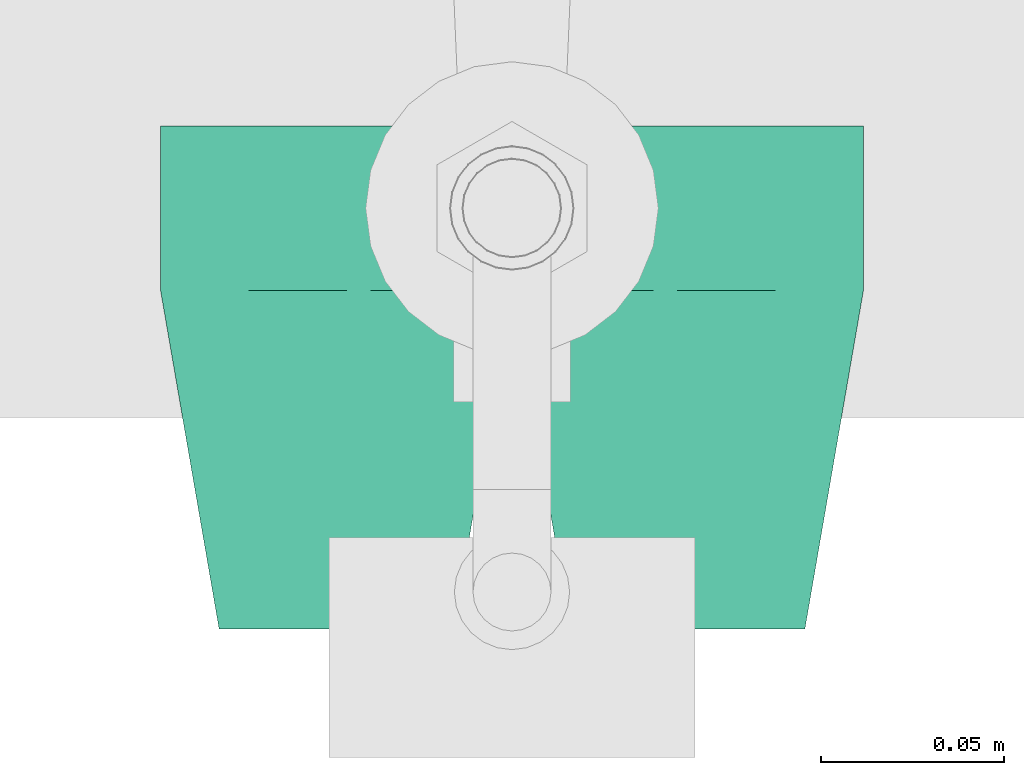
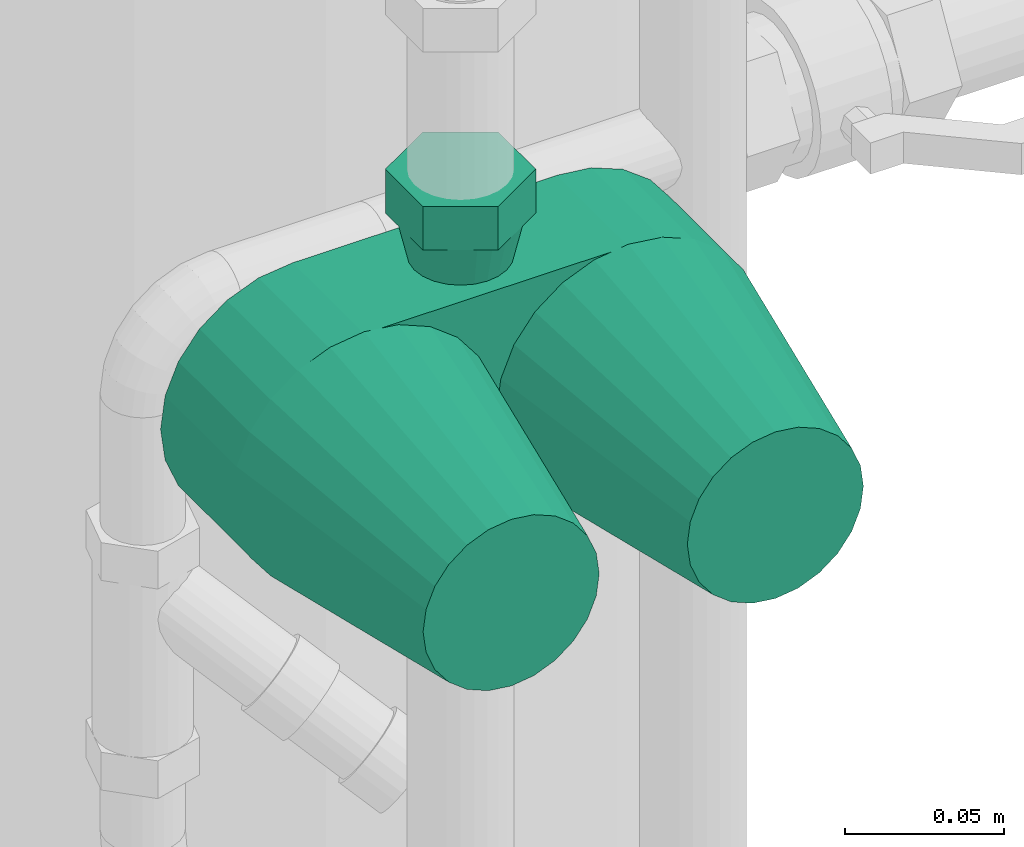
# One storey, part 104 of 374: 1 flow moving device.
"""IFC2X3 building model written with IfcOpenShell, lengths in metres."""

from ifc_helpers import new_model, si_unit, direction, origin, place, context, subcontext, project, spatial, open_shell, surface_model, source, transform, mapped, element, save


model = new_model("IFC2X3")

# Units and contexts
model_context = context("Model", 3, precision=1e-05, world=origin(), true_north=direction((-0.4480736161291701, 0.8939966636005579)))
body_context = subcontext(model_context, "Body", "Model", "MODEL_VIEW")
ifc_project = project(units=[si_unit("LENGTHUNIT", "METRE"), si_unit("AREAUNIT", "SQUARE_METRE"), si_unit("VOLUMEUNIT", "CUBIC_METRE"), si_unit("PLANEANGLEUNIT", "RADIAN"), si_unit("THERMODYNAMICTEMPERATUREUNIT", "KELVIN"), si_unit("MASSUNIT", "GRAM", prefix="KILO"), si_unit("TIMEUNIT", "SECOND")], contexts=[model_context])

# Site, building, storey
site_placement = place(None, origin())
site = spatial("IfcSite", under=ifc_project, at=site_placement, Name="Site 1", CompositionType="ELEMENT")
building_placement = place(site_placement, origin())
building = spatial("IfcBuilding", under=site, at=building_placement, Name="Undefined", CompositionType="ELEMENT")
storey_placement = place(building_placement, origin())
storey = spatial("IfcBuildingStorey", under=building, at=storey_placement, Name="Rez de chauss\x8ee", CompositionType="ELEMENT", Elevation=0.0)

# Flow moving device
shared_shape = source(origin(), body_context, "Body", "SurfaceModel", [
    surface_model("IfcFaceBasedSurfaceModel", [(0.0, 0.0, 0.0), (0.02367136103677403, 0.0, 0.0), (0.02367136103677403, 0.016799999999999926, 0.0), (0.0, 0.016799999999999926, 0.0), (-0.011835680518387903, 0.0, 0.02049999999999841), (-0.011835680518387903, 0.016799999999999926, 0.02049999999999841), (0.0, 0.0, 0.04100000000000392), (0.0, 0.016799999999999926, 0.04100000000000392), (0.02367136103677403, 0.0, 0.04100000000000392), (0.02367136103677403, 0.016799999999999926, 0.04100000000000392), (0.03550704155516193, 0.0, 0.02049999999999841), (0.03550704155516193, 0.016799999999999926, 0.02049999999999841), (-0.008664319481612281, 0.016799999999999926, 0.02049999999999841), (-0.007965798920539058, 0.016799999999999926, 0.025805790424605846), (-0.0044401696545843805, 0.03279999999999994, 0.0248611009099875), (-0.005014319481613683, 0.03279999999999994, 0.020500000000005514), (-0.005917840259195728, 0.016799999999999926, 0.030750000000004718), (-0.002756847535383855, 0.03279999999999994, 0.028925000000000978), (-0.0026600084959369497, 0.016799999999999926, 0.03499568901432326), (-7.906874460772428e-05, 0.03279999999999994, 0.032414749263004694), (0.0015856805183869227, 0.016799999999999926, 0.03825352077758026), (0.003410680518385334, 0.03279999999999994, 0.03509252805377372), (0.006529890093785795, 0.016799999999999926, 0.04030147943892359), (0.007474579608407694, 0.03279999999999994, 0.036775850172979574), (0.011835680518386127, 0.016799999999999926, 0.04100000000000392), (0.01183568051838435, 0.03279999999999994, 0.03735000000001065), (0.017141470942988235, 0.016799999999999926, 0.04030147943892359), (0.01619678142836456, 0.03279999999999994, 0.036775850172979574), (0.022085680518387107, 0.016799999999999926, 0.03825352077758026), (0.02026068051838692, 0.03279999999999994, 0.03509252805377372), (0.02633136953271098, 0.016799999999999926, 0.03499568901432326), (0.023750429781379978, 0.03279999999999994, 0.032414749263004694), (0.029589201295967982, 0.016799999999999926, 0.030750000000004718), (0.026428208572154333, 0.03279999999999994, 0.028925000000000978), (0.03163715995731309, 0.016799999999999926, 0.025805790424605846), (0.028111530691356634, 0.03279999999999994, 0.0248611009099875), (0.03233568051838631, 0.016799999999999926, 0.02049999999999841), (0.028685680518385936, 0.03279999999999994, 0.020500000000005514), (0.03163715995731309, 0.016799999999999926, 0.015194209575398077), (0.028111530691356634, 0.03279999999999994, 0.016138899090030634), (0.029589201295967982, 0.016799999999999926, 0.010249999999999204), (0.026428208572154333, 0.03279999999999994, 0.012075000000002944), (0.02633136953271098, 0.016799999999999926, 0.006004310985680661), (0.023750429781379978, 0.03279999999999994, 0.008585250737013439), (0.022085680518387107, 0.016799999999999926, 0.002746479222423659), (0.02026068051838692, 0.03279999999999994, 0.005907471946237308), (0.017141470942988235, 0.016799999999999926, 0.0006985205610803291), (0.01619678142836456, 0.03279999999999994, 0.004224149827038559), (0.011835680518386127, 0.016799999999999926, 0.0), (0.01183568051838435, 0.03279999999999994, 0.0036500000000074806), (0.006529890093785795, 0.016799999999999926, 0.0006985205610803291), (0.007474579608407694, 0.03279999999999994, 0.004224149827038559), (0.0015856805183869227, 0.016799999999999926, 0.002746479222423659), (0.003410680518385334, 0.03279999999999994, 0.005907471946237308), (-0.0026600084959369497, 0.016799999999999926, 0.006004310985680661), (-7.906874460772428e-05, 0.03279999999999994, 0.008585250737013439), (-0.005917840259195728, 0.016799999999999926, 0.010249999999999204), (-0.002756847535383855, 0.03279999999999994, 0.012075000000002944), (-0.007965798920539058, 0.016799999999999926, 0.015194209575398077), (-0.0044401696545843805, 0.03279999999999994, 0.016138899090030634), (-0.005014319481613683, 0.12719999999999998, 0.02049999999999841), (-0.0044401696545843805, 0.12719999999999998, 0.024861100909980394), (-0.007965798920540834, 0.1432, 0.02580579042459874), (-0.008664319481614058, 0.1432, 0.020499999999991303), (-0.0027568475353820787, 0.12719999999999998, 0.028925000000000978), (-0.005917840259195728, 0.1432, 0.030750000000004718), (-7.906874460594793e-05, 0.12719999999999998, 0.03241474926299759), (-0.0026600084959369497, 0.1432, 0.034995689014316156), (0.0034106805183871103, 0.12719999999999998, 0.03509252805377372), (0.0015856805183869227, 0.1432, 0.03825352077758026), (0.007474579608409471, 0.12719999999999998, 0.03677585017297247), (0.006529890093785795, 0.1432, 0.04030147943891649), (0.011835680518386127, 0.12719999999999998, 0.03734999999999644), (0.011835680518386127, 0.1432, 0.04099999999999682), (0.01619678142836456, 0.12719999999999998, 0.03677585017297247), (0.01714147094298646, 0.1432, 0.04030147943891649), (0.02026068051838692, 0.12719999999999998, 0.03509252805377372), (0.02208568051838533, 0.1432, 0.03825352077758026), (0.023750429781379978, 0.12719999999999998, 0.03241474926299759), (0.026331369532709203, 0.1432, 0.034995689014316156), (0.02642820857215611, 0.12719999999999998, 0.028925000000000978), (0.029589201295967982, 0.1432, 0.030750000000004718), (0.02811153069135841, 0.12719999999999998, 0.024861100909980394), (0.03163715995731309, 0.1432, 0.02580579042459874), (0.028685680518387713, 0.12719999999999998, 0.02049999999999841), (0.03233568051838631, 0.1432, 0.020499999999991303), (0.02811153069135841, 0.12719999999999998, 0.01613889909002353), (0.03163715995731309, 0.1432, 0.015194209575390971), (0.02642820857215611, 0.12719999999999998, 0.012074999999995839), (0.029589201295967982, 0.1432, 0.010249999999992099), (0.023750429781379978, 0.12719999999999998, 0.008585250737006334), (0.026331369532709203, 0.1432, 0.0060043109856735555), (0.02026068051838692, 0.12719999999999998, 0.005907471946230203), (0.02208568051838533, 0.1432, 0.0027464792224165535), (0.01619678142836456, 0.12719999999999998, 0.004224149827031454), (0.01714147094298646, 0.1432, 0.0006985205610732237), (0.011835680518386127, 0.12719999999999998, 0.003650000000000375), (0.011835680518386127, 0.1432, -7.105427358e-15), (0.007474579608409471, 0.12719999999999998, 0.004224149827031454), (0.006529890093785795, 0.1432, 0.0006985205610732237), (0.0034106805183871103, 0.12719999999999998, 0.005907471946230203), (0.0015856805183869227, 0.1432, 0.0027464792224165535), (-7.906874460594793e-05, 0.12719999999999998, 0.008585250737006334), (-0.0026600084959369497, 0.1432, 0.0060043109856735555), (-0.0027568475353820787, 0.12719999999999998, 0.012074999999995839), (-0.005917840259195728, 0.1432, 0.010249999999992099), (-0.0044401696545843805, 0.12719999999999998, 0.01613889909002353), (-0.007965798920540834, 0.1432, 0.015194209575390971), (0.0, 0.1432, 0.0), (0.02367136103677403, 0.1432, 0.0), (0.02367136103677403, 0.15999999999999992, 0.0), (0.0, 0.15999999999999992, 0.0), (-0.011835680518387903, 0.1432, 0.02049999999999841), (-0.011835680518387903, 0.15999999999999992, 0.02049999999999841), (0.0, 0.1432, 0.04100000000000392), (0.0, 0.15999999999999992, 0.04100000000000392), (0.02367136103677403, 0.1432, 0.04100000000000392), (0.02367136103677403, 0.15999999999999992, 0.04100000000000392), (0.03550704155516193, 0.1432, 0.02049999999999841), (0.03550704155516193, 0.15999999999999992, 0.02049999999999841), (0.03433568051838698, 0.03279999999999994, 0.06850000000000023), (0.03433568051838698, 0.03279999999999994, -0.027499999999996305), (-0.01066431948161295, 0.03279999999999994, -0.027499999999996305), (-0.01066431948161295, 0.03279999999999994, 0.06850000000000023), (0.03433568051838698, 0.12719999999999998, -0.027499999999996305), (0.03433568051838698, 0.12576477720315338, -0.03987152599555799), (-0.01066431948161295, 0.12576477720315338, -0.03987152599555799), (-0.01066431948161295, 0.12719999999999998, -0.027499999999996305), (0.03433568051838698, 0.12114405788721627, -0.0514371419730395), (-0.01066431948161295, 0.12114405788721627, -0.0514371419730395), (0.03433568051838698, 0.11365947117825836, -0.06139181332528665), (-0.01066431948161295, 0.11365947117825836, -0.06139181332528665), (0.03433568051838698, 0.10383198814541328, -0.06904263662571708), (-0.01066431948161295, 0.10383198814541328, -0.06904263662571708), (0.03433568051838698, 0.09234565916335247, -0.0738570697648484), (-0.01066431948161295, 0.09234565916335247, -0.0738570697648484), (0.03433568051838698, 0.08000000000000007, -0.07549999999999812), (-0.01066431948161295, 0.08000000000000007, -0.07549999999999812), (0.03433568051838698, 0.0676543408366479, -0.0738570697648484), (-0.01066431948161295, 0.0676543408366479, -0.0738570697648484), (0.03433568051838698, 0.05616801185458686, -0.06904263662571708), (-0.01066431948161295, 0.05616801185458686, -0.06904263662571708), (0.03433568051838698, 0.04634052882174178, -0.06139181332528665), (-0.01066431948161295, 0.04634052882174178, -0.06139181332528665), (0.03433568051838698, 0.03885594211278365, -0.0514371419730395), (-0.01066431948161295, 0.03885594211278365, -0.0514371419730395), (0.03433568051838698, 0.03423522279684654, -0.03987152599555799), (-0.01066431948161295, 0.03423522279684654, -0.03987152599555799), (0.03433568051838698, 0.12719999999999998, 0.06850000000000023), (-0.01066431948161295, 0.12719999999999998, 0.06850000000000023), (0.03433568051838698, 0.03423522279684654, 0.08087152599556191), (-0.01066431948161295, 0.03423522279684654, 0.08087152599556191), (0.03433568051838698, 0.03885594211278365, 0.09243714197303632), (-0.01066431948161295, 0.03885594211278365, 0.09243714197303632), (0.03433568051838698, 0.046340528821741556, 0.10239181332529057), (-0.01066431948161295, 0.046340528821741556, 0.10239181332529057), (0.03433568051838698, 0.05616801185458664, 0.110042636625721), (-0.01066431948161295, 0.05616801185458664, 0.110042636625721), (0.03433568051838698, 0.0676543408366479, 0.11485706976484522), (-0.01066431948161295, 0.0676543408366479, 0.11485706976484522), (0.03433568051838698, 0.08000000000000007, 0.11650000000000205), (-0.01066431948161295, 0.08000000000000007, 0.11650000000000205), (0.03433568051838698, 0.09234565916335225, 0.11485706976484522), (-0.01066431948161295, 0.09234565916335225, 0.11485706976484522), (0.03433568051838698, 0.10383198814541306, 0.110042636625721), (-0.01066431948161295, 0.10383198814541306, 0.110042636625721), (0.03433568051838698, 0.11365947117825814, 0.10239181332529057), (-0.01066431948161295, 0.11365947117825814, 0.10239181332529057), (0.03433568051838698, 0.12114405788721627, 0.09243714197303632), (-0.01066431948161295, 0.12114405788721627, 0.09243714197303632), (0.03433568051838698, 0.12576477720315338, 0.08087152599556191), (-0.01066431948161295, 0.12576477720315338, 0.08087152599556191), (0.03433568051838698, 0.1280000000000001, 0.06850000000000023), (0.03433568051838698, 0.12636443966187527, 0.08092331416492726), (0.12683568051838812, 0.11090962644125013, 0.07678220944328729), (0.12683568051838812, 0.1120000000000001, 0.06850000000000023), (0.03433568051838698, 0.1215692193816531, 0.09250000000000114), (0.12683568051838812, 0.10771281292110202, 0.08449999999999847), (0.03433568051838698, 0.11394112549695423, 0.10244112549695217), (0.12683568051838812, 0.10262741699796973, 0.09112741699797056), (0.03433568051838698, 0.10400000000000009, 0.11006921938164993), (0.12683568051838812, 0.09600000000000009, 0.0962128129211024), (0.03433568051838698, 0.09242331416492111, 0.1148644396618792), (0.12683568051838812, 0.08828220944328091, 0.09940962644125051), (0.12683568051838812, 0.08000000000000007, 0.10050000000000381), (0.03433568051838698, 0.06757668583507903, 0.1148644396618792), (0.12683568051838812, 0.07171779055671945, 0.09940962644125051), (0.03433568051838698, 0.05600000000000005, 0.11006921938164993), (0.12683568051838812, 0.06400000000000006, 0.0962128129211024), (0.03433568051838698, 0.04605887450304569, 0.10244112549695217), (0.12683568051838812, 0.05737258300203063, 0.09112741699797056), (0.03433568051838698, 0.03843078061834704, 0.09250000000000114), (0.12683568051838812, 0.05228718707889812, 0.08449999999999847), (0.03433568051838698, 0.03363556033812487, 0.08092331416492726), (0.12683568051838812, 0.04909037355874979, 0.07678220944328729), (0.03433568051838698, 0.03200000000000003, 0.06850000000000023), (0.12683568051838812, 0.04800000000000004, 0.06850000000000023), (0.03433568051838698, 0.03363556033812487, 0.0560766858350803), (0.12683568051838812, 0.04909037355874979, 0.06021779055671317), (0.03433568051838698, 0.03843078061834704, 0.04449999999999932), (0.12683568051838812, 0.05228718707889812, 0.05250000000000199), (0.03433568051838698, 0.04605887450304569, 0.03455887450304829), (0.12683568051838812, 0.05737258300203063, 0.045872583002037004), (0.03433568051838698, 0.05600000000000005, 0.026930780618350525), (0.12683568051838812, 0.06400000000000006, 0.04078718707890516), (0.03433568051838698, 0.06757668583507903, 0.022135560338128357), (0.12683568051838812, 0.07171779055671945, 0.037590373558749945), (0.03433568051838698, 0.08000000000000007, 0.02049999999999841), (0.12683568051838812, 0.08000000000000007, 0.03650000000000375), (0.03433568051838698, 0.09242331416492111, 0.022135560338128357), (0.12683568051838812, 0.08828220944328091, 0.037590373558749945), (0.03433568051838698, 0.10400000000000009, 0.026930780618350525), (0.12683568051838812, 0.09600000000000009, 0.04078718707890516), (0.03433568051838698, 0.11394112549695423, 0.03455887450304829), (0.12683568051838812, 0.10262741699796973, 0.045872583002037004), (0.03433568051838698, 0.1215692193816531, 0.04449999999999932), (0.12683568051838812, 0.10771281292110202, 0.05250000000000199), (0.03433568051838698, 0.12636443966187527, 0.0560766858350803), (0.12683568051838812, 0.11090962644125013, 0.06021779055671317), (0.12683568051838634, 0.08000000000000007, 0.06850000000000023), (0.03433568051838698, 0.1280000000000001, -0.027499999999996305), (0.03433568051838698, 0.12636443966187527, -0.015076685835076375), (0.12683568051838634, 0.11090962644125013, -0.019217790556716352), (0.12683568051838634, 0.1120000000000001, -0.027499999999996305), (0.03433568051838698, 0.1215692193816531, -0.0034999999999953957), (0.12683568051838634, 0.10771281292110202, -0.011499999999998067), (0.03433568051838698, 0.11394112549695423, 0.006441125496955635), (0.12683568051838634, 0.10262741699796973, -0.004872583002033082), (0.03433568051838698, 0.10400000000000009, 0.014069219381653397), (0.12683568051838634, 0.09600000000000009, 0.0002128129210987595), (0.03433568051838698, 0.09242331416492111, 0.018864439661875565), (0.12683568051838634, 0.08828220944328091, 0.0034096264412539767), (0.12683568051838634, 0.08000000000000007, 0.0045000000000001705), (0.03433568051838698, 0.06757668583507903, 0.018864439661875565), (0.12683568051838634, 0.07171779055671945, 0.0034096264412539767), (0.03433568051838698, 0.05600000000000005, 0.014069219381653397), (0.12683568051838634, 0.06400000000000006, 0.0002128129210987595), (0.03433568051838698, 0.04605887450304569, 0.006441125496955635), (0.12683568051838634, 0.05737258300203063, -0.004872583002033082), (0.03433568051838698, 0.03843078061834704, -0.0034999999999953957), (0.12683568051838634, 0.05228718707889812, -0.011499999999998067), (0.03433568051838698, 0.03363556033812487, -0.015076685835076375), (0.12683568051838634, 0.04909037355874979, -0.019217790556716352), (0.03433568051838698, 0.03200000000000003, -0.027499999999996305), (0.12683568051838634, 0.04800000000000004, -0.027499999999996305), (0.03433568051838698, 0.03363556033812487, -0.03992331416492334), (0.12683568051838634, 0.04909037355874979, -0.035782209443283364), (0.03433568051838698, 0.03843078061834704, -0.051499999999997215), (0.12683568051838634, 0.05228718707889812, -0.04350000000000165), (0.03433568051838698, 0.04605887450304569, -0.061441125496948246), (0.12683568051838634, 0.05737258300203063, -0.050127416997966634), (0.03433568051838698, 0.05600000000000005, -0.06906921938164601), (0.12683568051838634, 0.06400000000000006, -0.055212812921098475), (0.03433568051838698, 0.06757668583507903, -0.07386443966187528), (0.12683568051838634, 0.07171779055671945, -0.05840962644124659), (0.12683568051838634, 0.08000000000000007, -0.059499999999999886), (0.03433568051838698, 0.09242331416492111, -0.07386443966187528), (0.12683568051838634, 0.08828220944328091, -0.05840962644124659), (0.03433568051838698, 0.10400000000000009, -0.06906921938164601), (0.12683568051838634, 0.09600000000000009, -0.055212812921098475), (0.03433568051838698, 0.11394112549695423, -0.061441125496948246), (0.12683568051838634, 0.10262741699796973, -0.050127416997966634), (0.03433568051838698, 0.1215692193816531, -0.051499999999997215), (0.12683568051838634, 0.10771281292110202, -0.04350000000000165), (0.03433568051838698, 0.12636443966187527, -0.03992331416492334), (0.12683568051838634, 0.11090962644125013, -0.035782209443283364), (0.12683568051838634, 0.08000000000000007, -0.027499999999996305)], [open_shell([[[0, 1, 2, 3]], [[4, 0, 3, 5]], [[6, 4, 5, 7]], [[8, 6, 7, 9]], [[10, 8, 9, 11]], [[1, 10, 11, 2]], [[1, 0, 4]], [[1, 4, 6]], [[1, 6, 8]], [[1, 8, 10]], [[2, 5, 3]], [[2, 7, 5]], [[2, 9, 7]], [[2, 11, 9]], [[12, 13, 14, 15]], [[13, 16, 17, 14]], [[16, 18, 19, 17]], [[18, 20, 21, 19]], [[20, 22, 23, 21]], [[22, 24, 25, 23]], [[24, 26, 27, 25]], [[26, 28, 29, 27]], [[28, 30, 31, 29]], [[30, 32, 33, 31]], [[32, 34, 35, 33]], [[34, 36, 37, 35]], [[36, 38, 39, 37]], [[38, 40, 41, 39]], [[40, 42, 43, 41]], [[42, 44, 45, 43]], [[44, 46, 47, 45]], [[46, 48, 49, 47]], [[48, 50, 51, 49]], [[50, 52, 53, 51]], [[52, 54, 55, 53]], [[54, 56, 57, 55]], [[56, 58, 59, 57]], [[58, 12, 15, 59]], [[60, 61, 62, 63]], [[61, 64, 65, 62]], [[64, 66, 67, 65]], [[66, 68, 69, 67]], [[68, 70, 71, 69]], [[70, 72, 73, 71]], [[72, 74, 75, 73]], [[74, 76, 77, 75]], [[76, 78, 79, 77]], [[78, 80, 81, 79]], [[80, 82, 83, 81]], [[82, 84, 85, 83]], [[84, 86, 87, 85]], [[86, 88, 89, 87]], [[88, 90, 91, 89]], [[90, 92, 93, 91]], [[92, 94, 95, 93]], [[94, 96, 97, 95]], [[96, 98, 99, 97]], [[98, 100, 101, 99]], [[100, 102, 103, 101]], [[102, 104, 105, 103]], [[104, 106, 107, 105]], [[106, 60, 63, 107]], [[108, 109, 110, 111]], [[112, 108, 111, 113]], [[114, 112, 113, 115]], [[116, 114, 115, 117]], [[118, 116, 117, 119]], [[109, 118, 119, 110]], [[109, 108, 112]], [[109, 112, 114]], [[109, 114, 116]], [[109, 116, 118]], [[110, 113, 111]], [[110, 115, 113]], [[110, 117, 115]], [[110, 119, 117]], [[120, 121, 122, 123]], [[124, 125, 126, 127]], [[125, 128, 129, 126]], [[128, 130, 131, 129]], [[130, 132, 133, 131]], [[132, 134, 135, 133]], [[134, 136, 137, 135]], [[136, 138, 139, 137]], [[138, 140, 141, 139]], [[140, 142, 143, 141]], [[142, 144, 145, 143]], [[144, 146, 147, 145]], [[146, 121, 122, 147]], [[124, 148, 149, 127]], [[120, 150, 151, 123]], [[150, 152, 153, 151]], [[152, 154, 155, 153]], [[154, 156, 157, 155]], [[156, 158, 159, 157]], [[158, 160, 161, 159]], [[160, 162, 163, 161]], [[162, 164, 165, 163]], [[164, 166, 167, 165]], [[166, 168, 169, 167]], [[168, 170, 171, 169]], [[170, 148, 149, 171]], [[147, 122, 123]], [[145, 147, 123]], [[143, 145, 123]], [[141, 143, 123]], [[139, 141, 123]], [[137, 139, 123]], [[135, 137, 123]], [[133, 135, 123]], [[131, 133, 123]], [[129, 131, 123]], [[126, 129, 123]], [[127, 126, 123]], [[149, 127, 123]], [[171, 149, 123]], [[169, 171, 123]], [[167, 169, 123]], [[165, 167, 123]], [[163, 165, 123]], [[161, 163, 123]], [[159, 161, 123]], [[157, 159, 123]], [[155, 157, 123]], [[153, 155, 123]], [[151, 153, 123]], [[120, 121, 146]], [[120, 146, 144]], [[120, 144, 142]], [[120, 142, 140]], [[120, 140, 138]], [[120, 138, 136]], [[120, 136, 134]], [[120, 134, 132]], [[120, 132, 130]], [[120, 130, 128]], [[120, 128, 125]], [[120, 125, 124]], [[120, 124, 148]], [[120, 148, 170]], [[120, 170, 168]], [[120, 168, 166]], [[120, 166, 164]], [[120, 164, 162]], [[120, 162, 160]], [[120, 160, 158]], [[120, 158, 156]], [[120, 156, 154]], [[120, 154, 152]], [[120, 152, 150]], [[172, 173, 174, 175]], [[173, 176, 177, 174]], [[176, 178, 179, 177]], [[178, 180, 181, 179]], [[180, 182, 183, 181]], [[182, 160, 184, 183]], [[160, 185, 186, 184]], [[185, 187, 188, 186]], [[187, 189, 190, 188]], [[189, 191, 192, 190]], [[191, 193, 194, 192]], [[193, 195, 196, 194]], [[195, 197, 198, 196]], [[197, 199, 200, 198]], [[199, 201, 202, 200]], [[201, 203, 204, 202]], [[203, 205, 206, 204]], [[205, 207, 208, 206]], [[207, 209, 210, 208]], [[209, 211, 212, 210]], [[211, 213, 214, 212]], [[213, 215, 216, 214]], [[215, 217, 218, 216]], [[217, 172, 175, 218]], [[219, 218, 175]], [[219, 216, 218]], [[219, 214, 216]], [[219, 212, 214]], [[219, 210, 212]], [[219, 208, 210]], [[219, 206, 208]], [[219, 204, 206]], [[219, 202, 204]], [[219, 200, 202]], [[219, 198, 200]], [[219, 196, 198]], [[219, 194, 196]], [[219, 192, 194]], [[219, 190, 192]], [[219, 188, 190]], [[219, 186, 188]], [[219, 184, 186]], [[219, 183, 184]], [[219, 181, 183]], [[219, 179, 181]], [[219, 177, 179]], [[219, 174, 177]], [[219, 175, 174]], [[220, 221, 222, 223]], [[221, 224, 225, 222]], [[224, 226, 227, 225]], [[226, 228, 229, 227]], [[228, 230, 231, 229]], [[230, 207, 232, 231]], [[207, 233, 234, 232]], [[233, 235, 236, 234]], [[235, 237, 238, 236]], [[237, 239, 240, 238]], [[239, 241, 242, 240]], [[241, 243, 244, 242]], [[243, 245, 246, 244]], [[245, 247, 248, 246]], [[247, 249, 250, 248]], [[249, 251, 252, 250]], [[251, 253, 254, 252]], [[253, 136, 255, 254]], [[136, 256, 257, 255]], [[256, 258, 259, 257]], [[258, 260, 261, 259]], [[260, 262, 263, 261]], [[262, 264, 265, 263]], [[264, 220, 223, 265]], [[266, 265, 223]], [[266, 263, 265]], [[266, 261, 263]], [[266, 259, 261]], [[266, 257, 259]], [[266, 255, 257]], [[266, 254, 255]], [[266, 252, 254]], [[266, 250, 252]], [[266, 248, 250]], [[266, 246, 248]], [[266, 244, 246]], [[266, 242, 244]], [[266, 240, 242]], [[266, 238, 240]], [[266, 236, 238]], [[266, 234, 236]], [[266, 232, 234]], [[266, 231, 232]], [[266, 229, 231]], [[266, 227, 229]], [[266, 225, 227]], [[266, 222, 225]], [[266, 223, 222]]])]),
])
flow_moving_device_placement = place(storey_placement, origin())
element("IfcFlowMovingDevice", 1, at=flow_moving_device_placement, inside=storey, Name="Pompe double", ObjectType="Pompe double", context=body_context, shape_type="MappedRepresentation", body=[
    mapped(shared_shape, transform((53.278062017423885, 10.7298727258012, 1.02), x_axis=(0.0, -1.0, 0.0), y_axis=(0.0, 0.0, 1.0), z_axis=(-1.0, 0.0, 0.0))),
])

save(model, "model.ifc")
